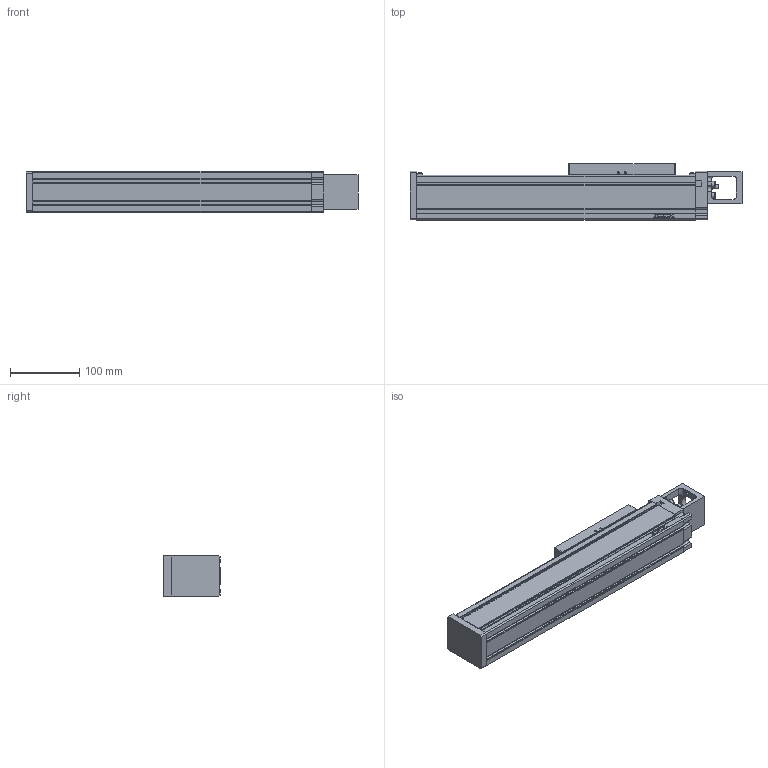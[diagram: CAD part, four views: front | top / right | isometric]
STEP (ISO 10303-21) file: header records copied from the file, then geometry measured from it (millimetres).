
FILE_DESCRIPTION(/* description */ (''),/* implementation_level */ '2;1');
FILE_NAME(/* name */ 'D:\混合母檔20191031\混和母檔\混和母檔\bin\Debug\Download\3D\KU60-10C-200AF0\KU60-10C-200AF0.stp',/* time_stamp */ '2019-11-04T16:35:15+08:00',/* author */ ('user'),/* organization */ (''),/* preprocessor_version */ 'ST-DEVELOPER v16.13',/* originating_system */ 'Autodesk Inventor 2018',/* authorisation */ '');
FILE_SCHEMA (('CONFIG_CONTROL_DESIGN','AUTOMOTIVE_DESIGN { 1 0 10303 214 3 1 1 }'));
Length unit declared in the file: millimetre
Products named in the file (3): KU60-10C-200AF0; KU060-F0-BP; KU60-SL
Assembly tree (2 placements, depth 2):
  KU60-10C-200AF0
    KU060-F0-BP
    KU60-SL
Bounding box: 481 x 82 x 60 mm (x, y, z)
Volume: 1772170.3 mm3; surface area: 197680.8 mm2
Topology: 2 solids, 14 shells, 756 faces, 2087 edges, 1370 vertices
Faces by surface type: plane 448, bspline 140, cylinder 133, cone 23, torus 12
Full cylindrical faces by diameter (mm): 2.459 x8, 3 x4, 3.242 x16, 3.5 x4, 4.5 x4, 5 x4, 5.5 x4, 5.7 x4, 6 x1, 8 x1, 8.5 x4, 30 x1, 35 x1
Entity records: 24568 total; most frequent: CARTESIAN_POINT 6539, ORIENTED_EDGE 3902, DIRECTION 3204, EDGE_CURVE 1951, VERTEX_POINT 1321, LINE 1288, VECTOR 1288, AXIS2_PLACEMENT_3D 958
